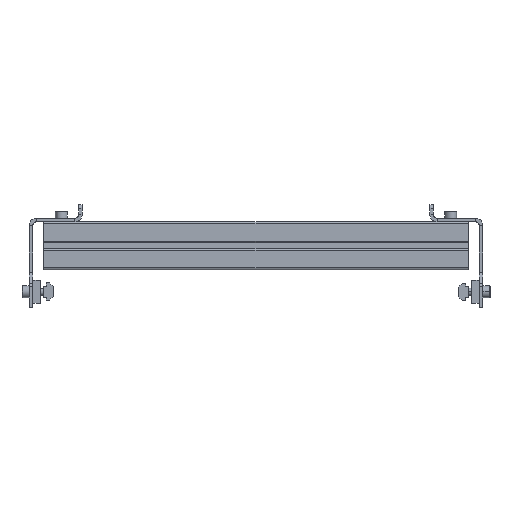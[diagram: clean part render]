
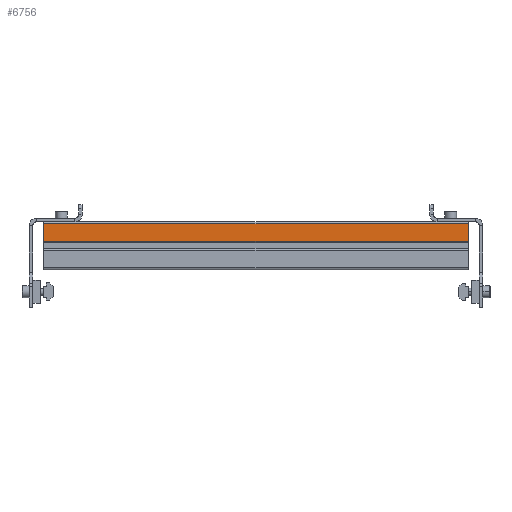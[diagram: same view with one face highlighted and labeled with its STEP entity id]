
A CAD part, top view. The second image highlights one B-rep face of the part: STEP entity #6756.
In plain terms, the highlighted planar face has unit normal (0, 0, 1) as drawn and (0, 1, 0) by its records, which use the part's own axes.
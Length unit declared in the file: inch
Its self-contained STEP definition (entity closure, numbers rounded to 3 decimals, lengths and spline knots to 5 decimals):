
#111 = EDGE_CURVE ( 'NONE', #5889, #2802, #4649, .T. ) ;
#311 = CARTESIAN_POINT ( 'NONE',  ( -0.14758, 0.441, 6.98 ) ) ;
#336 = VERTEX_POINT ( 'NONE', #2335 ) ;
#764 = PLANE ( 'NONE',  #3138 ) ;
#791 = DIRECTION ( 'NONE',  ( 0., 0., -1. ) ) ;
#792 = VECTOR ( 'NONE', #6040, 39.37008 ) ;
#1187 = LINE ( 'NONE', #7865, #792 ) ;
#1333 = DIRECTION ( 'NONE',  ( -1., 0., 0. ) ) ;
#1711 = CARTESIAN_POINT ( 'NONE',  ( -0.14758, 0.441, -6.98 ) ) ;
#1948 = CARTESIAN_POINT ( 'NONE',  ( 0.7875, 0.441, 6.98 ) ) ;
#2075 = DIRECTION ( 'NONE',  ( 0., 0., 1. ) ) ;
#2335 = CARTESIAN_POINT ( 'NONE',  ( -0.725, 0.441, 6.98 ) ) ;
#2522 = LINE ( 'NONE', #1948, #6824 ) ;
#2785 = EDGE_CURVE ( 'NONE', #6862, #5889, #1187, .T. ) ;
#2802 = VERTEX_POINT ( 'NONE', #311 ) ;
#3078 = ORIENTED_EDGE ( 'NONE', *, *, #111, .F. ) ;
#3138 = AXIS2_PLACEMENT_3D ( 'NONE', #4019, #4646, #791 ) ;
#3213 = DIRECTION ( 'NONE',  ( 0., 0., 1. ) ) ;
#3734 = FACE_OUTER_BOUND ( 'NONE', #6958, .T. ) ;
#3912 = CARTESIAN_POINT ( 'NONE',  ( -0.725, 0.441, 75. ) ) ;
#4019 = CARTESIAN_POINT ( 'NONE',  ( -0.7875, 0.441, 75. ) ) ;
#4620 = CARTESIAN_POINT ( 'NONE',  ( -0.14758, 0.441, -75. ) ) ;
#4646 = DIRECTION ( 'NONE',  ( 0., -1., 0. ) ) ;
#4649 = LINE ( 'NONE', #4620, #8162 ) ;
#4901 = ORIENTED_EDGE ( 'NONE', *, *, #2785, .F. ) ;
#5358 = ORIENTED_EDGE ( 'NONE', *, *, #8088, .F. ) ;
#5410 = ORIENTED_EDGE ( 'NONE', *, *, #7379, .T. ) ;
#5427 = CARTESIAN_POINT ( 'NONE',  ( -0.725, 0.441, -6.98 ) ) ;
#5632 = VECTOR ( 'NONE', #3213, 39.37008 ) ;
#5889 = VERTEX_POINT ( 'NONE', #1711 ) ;
#6040 = DIRECTION ( 'NONE',  ( 1., 0., 0. ) ) ;
#6756 = ADVANCED_FACE ( 'NONE', ( #3734 ), #764, .F. ) ;
#6824 = VECTOR ( 'NONE', #1333, 39.37008 ) ;
#6840 = LINE ( 'NONE', #3912, #5632 ) ;
#6862 = VERTEX_POINT ( 'NONE', #5427 ) ;
#6958 = EDGE_LOOP ( 'NONE', ( #3078, #4901, #5410, #5358 ) ) ;
#7379 = EDGE_CURVE ( 'NONE', #6862, #336, #6840, .T. ) ;
#7865 = CARTESIAN_POINT ( 'NONE',  ( 0.7875, 0.441, -6.98 ) ) ;
#8088 = EDGE_CURVE ( 'NONE', #2802, #336, #2522, .T. ) ;
#8162 = VECTOR ( 'NONE', #2075, 39.37008 ) ;
